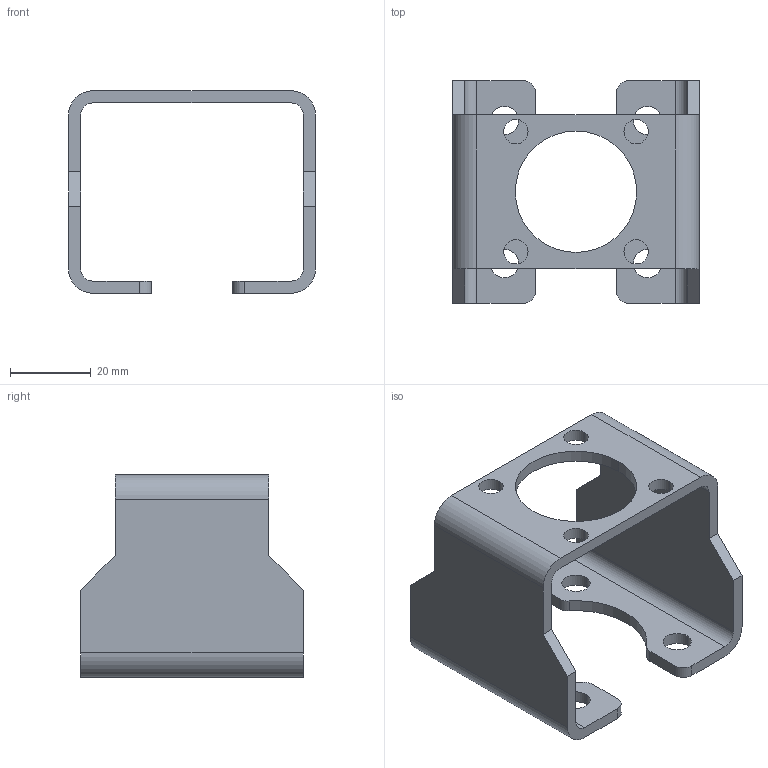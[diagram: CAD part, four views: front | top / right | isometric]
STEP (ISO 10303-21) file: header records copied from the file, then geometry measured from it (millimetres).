
FILE_DESCRIPTION((''),'2;1');
FILE_NAME('74701542500','2018-02-20T',('UFFICIO TECNICO'),('CDM Tecnoconsulting'),'CREO PARAMETRIC BY PTC INC, 2015290','CREO PARAMETRIC BY PTC INC, 2015290','');
FILE_SCHEMA(('CONFIG_CONTROL_DESIGN'));
Length unit declared in the file: millimetre
Products named in the file (1): 74701542500
Bounding box: 61 x 55 x 50 mm (x, y, z)
Volume: 21125 mm3; surface area: 16369.6 mm2
Topology: 1 solids, 1 shells, 218 faces, 606 edges, 404 vertices
Faces by surface type: plane 126, extrusion 56, cylinder 36
Entity records: 7277 total; most frequent: CARTESIAN_POINT 1668, ORIENTED_EDGE 1212, DIRECTION 946, EDGE_CURVE 606, VECTOR 478, LINE 422, VERTEX_POINT 404, EDGE_LOOP 250
